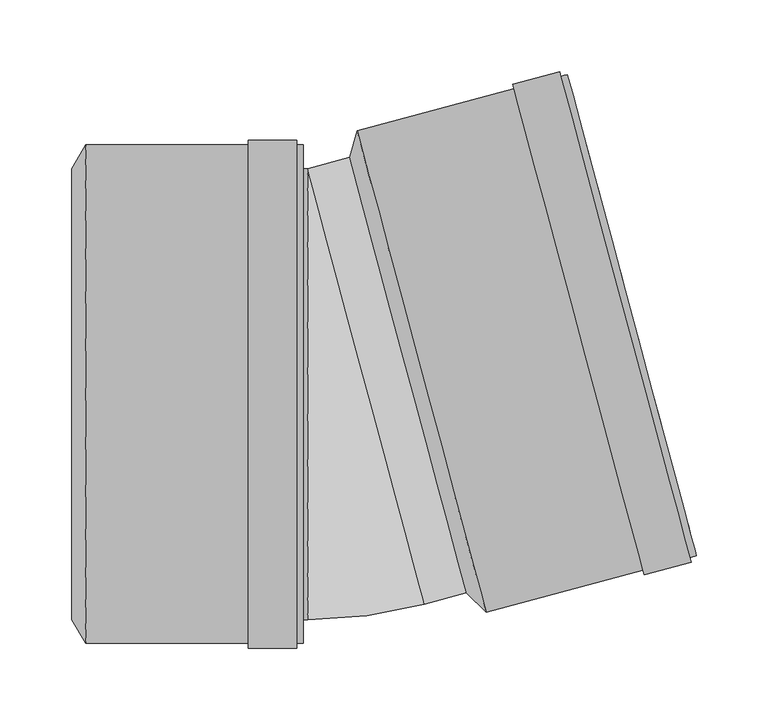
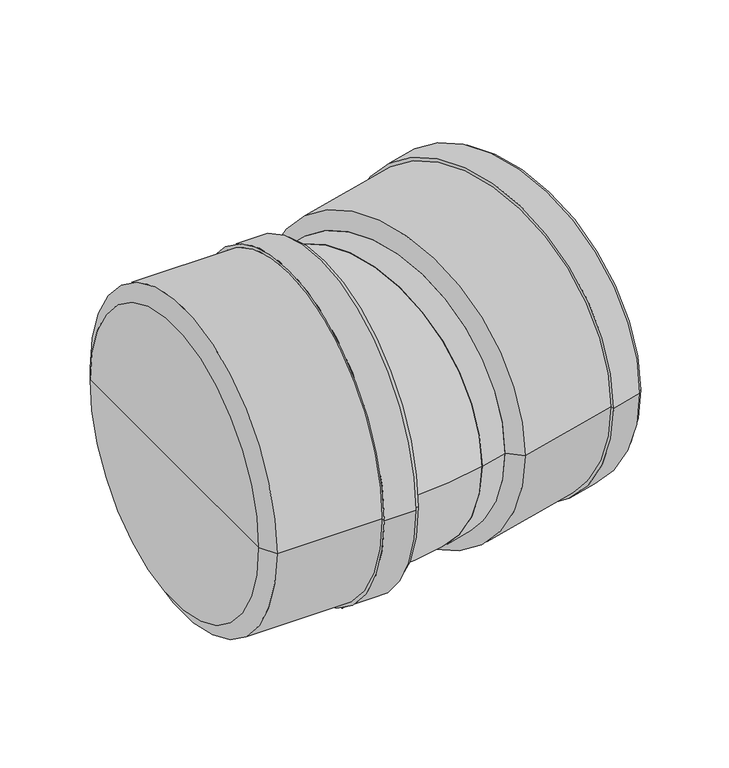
"""IFC4 building model written with IfcOpenShell, lengths in millimetres: pipe fitting geometry, pf_KGB : pf_KGB."""

from ifc_helpers import new_model, si_unit, point, frame, origin, origin_2d, place, context, project, spatial, polyline, circle_curve, ellipse_curve, trimmed, segment, composite_curve, outline, extrude, source, transform, mapped, element, save
from ifc_brep_helpers import plane_surface, cylinder_surface, revolved_surface, advanced_brep


def pipe_fitting_ae4a4517(model_context):
    return source(origin(), model_context, "Body", "SolidModel", [
        advanced_brep(
        [(90.1228093, -138.9076644, 0.0), (8.5948101, 165.3589708, 0.0), (13.8610797, 183.9556481, 0.0), (103.9818712, -152.3797246, 0.0), (49.3588097, 13.2256532, 0.0), (250.8991893, -113.0133478, 0.0), (160.7783978, 223.3220249, 0.0), (165.074794, 207.2876562, 0.0), (246.6027932, -96.9789791, 0.0), (156.1419539, 222.0796935, 0.0), (246.2627454, -114.2556793, 0.0), (155.2619691, 225.3638413, 0.0), (247.1427301, -117.5398271, 0.0), (122.5170836, 216.5898756, 0.0), (214.3978446, -126.3137927, 0.0), (123.3970684, 213.3057278, 0.0), (213.5178599, -123.0296449, 0.0), (99.685475, -136.3453559, 0.0), (18.1574758, 167.9212794, 0.0), (58.9214754, 15.7879618, 0.0)],
        [
            (0, 1, circle_curve(frame((49.3588097, 13.2256532, 0.0), z_axis=(0.9659258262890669, 0.25881904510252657, 0.0), x_axis=(-0.2588190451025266, 0.9659258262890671, 0.0)), 157.5)),
            (1, 2),
            (2, 3, circle_curve(frame((58.9214754, 15.7879618, 0.0), z_axis=(-0.9659258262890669, -0.25881904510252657, 0.0), x_axis=(-0.2588190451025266, 0.9659258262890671, 0.0)), 174.1)),
            (3, 0),
            (1, 0, circle_curve(frame((49.3588097, 13.2256532, 0.0), z_axis=(0.9659258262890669, 0.25881904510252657, 0.0), x_axis=(-0.2588190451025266, 0.9659258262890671, 0.0)), 157.5)),
            (3, 2, circle_curve(frame((58.9214754, 15.7879618, 0.0), z_axis=(-0.9659258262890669, -0.25881904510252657, 0.0), x_axis=(-0.2588190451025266, 0.9659258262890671, 0.0)), 174.1)),
            (4, 1),
            (0, 4),
            (5, 6, circle_curve(frame((205.8387936, 55.1543385, 0.0), z_axis=(0.9659258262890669, 0.25881904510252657, 0.0), x_axis=(-0.2588190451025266, 0.9659258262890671, 0.0)), 174.1)),
            (6, 7),
            (7, 8, circle_curve(frame((205.8387936, 55.1543385, 0.0), z_axis=(-0.9659258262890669, -0.25881904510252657, 0.0), x_axis=(-0.2588190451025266, 0.9659258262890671, 0.0)), 157.5)),
            (8, 5),
            (9, 10, circle_curve(frame((201.2023496, 53.9120071, 0.0), z_axis=(0.9659258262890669, 0.25881904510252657, 0.0), x_axis=(-0.2588190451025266, 0.9659258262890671, 0.0)), 174.1)),
            (10, 5),
            (5, 6, circle_curve(frame((205.8387936, 55.1543385, 0.0), z_axis=(-0.9659258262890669, -0.25881904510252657, 0.0), x_axis=(-0.2588190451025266, 0.9659258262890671, 0.0)), 174.1)),
            (6, 9),
            (11, 12, circle_curve(frame((201.2023496, 53.9120071, 0.0), z_axis=(0.9659258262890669, 0.25881904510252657, 0.0), x_axis=(-0.2588190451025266, 0.9659258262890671, 0.0)), 177.5)),
            (12, 10),
            (9, 11),
            (13, 14, circle_curve(frame((168.4574641, 45.1380415, 0.0), z_axis=(0.9659258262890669, 0.25881904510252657, 0.0), x_axis=(-0.2588190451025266, 0.9659258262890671, 0.0)), 177.5)),
            (14, 12),
            (11, 13),
            (15, 16, circle_curve(frame((168.4574641, 45.1380415, 0.0), z_axis=(0.9659258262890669, 0.25881904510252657, 0.0), x_axis=(-0.2588190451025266, 0.9659258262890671, 0.0)), 174.1)),
            (16, 14),
            (13, 15),
            (8, 7, circle_curve(frame((205.8387936, 55.1543385, 0.0), z_axis=(-0.9659258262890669, -0.25881904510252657, 0.0), x_axis=(-0.2588190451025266, 0.9659258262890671, 0.0)), 157.5)),
            (10, 9, circle_curve(frame((201.2023496, 53.9120071, 0.0), z_axis=(0.9659258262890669, 0.25881904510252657, 0.0), x_axis=(-0.2588190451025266, 0.9659258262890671, 0.0)), 174.1)),
            (12, 11, circle_curve(frame((201.2023496, 53.9120071, 0.0), z_axis=(0.9659258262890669, 0.25881904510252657, 0.0), x_axis=(-0.2588190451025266, 0.9659258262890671, 0.0)), 177.5)),
            (14, 13, circle_curve(frame((168.4574641, 45.1380415, 0.0), z_axis=(0.9659258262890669, 0.25881904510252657, 0.0), x_axis=(-0.2588190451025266, 0.9659258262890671, 0.0)), 177.5)),
            (16, 15, circle_curve(frame((168.4574641, 45.1380415, 0.0), z_axis=(0.9659258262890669, 0.25881904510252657, 0.0), x_axis=(-0.2588190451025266, 0.9659258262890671, 0.0)), 174.1)),
            (2, 15),
            (16, 3),
            (17, 18, circle_curve(frame((58.9214754, 15.7879618, 0.0), z_axis=(0.9659258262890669, 0.25881904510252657, 0.0), x_axis=(-0.2588190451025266, 0.9659258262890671, 0.0)), 157.5)),
            (18, 19),
            (19, 17),
            (18, 17, circle_curve(frame((58.9214754, 15.7879618, 0.0), z_axis=(0.9659258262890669, 0.25881904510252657, 0.0), x_axis=(-0.2588190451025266, 0.9659258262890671, 0.0)), 157.5)),
            (7, 18),
            (17, 8),
        ],
        [
            revolved_surface(polyline([(13.8610797, 183.9556481, 0.0), (8.5948101, 165.3589708, 0.0)]), (49.3588097, 13.2256532, 0.0), (-0.9659258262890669, -0.25881904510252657, 0.0)),
            plane_surface(frame((49.3588097, 13.2256532, 0.0), z_axis=(-0.9659258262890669, -0.25881904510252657, 0.0), x_axis=(-0.25881904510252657, 0.9659258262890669, 0.0))),
            plane_surface(frame((205.8387936, 55.1543385, 0.0), z_axis=(0.9659258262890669, 0.25881904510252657, 0.0), x_axis=(-0.25881904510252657, 0.9659258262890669, 0.0))),
            cylinder_surface(frame((49.3588097, 13.2256532, 0.0), z_axis=(-0.9659258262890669, -0.25881904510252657, 0.0), x_axis=(-0.2588190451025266, 0.9659258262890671, 0.0)), 174.1),
            plane_surface(frame((201.2023496, 53.9120071, 0.0), z_axis=(0.9659258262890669, 0.25881904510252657, 0.0), x_axis=(-0.25881904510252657, 0.9659258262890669, 0.0))),
            cylinder_surface(frame((49.3588097, 13.2256532, 0.0), z_axis=(-0.9659258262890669, -0.25881904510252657, 0.0), x_axis=(-0.2588190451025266, 0.9659258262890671, 0.0)), 177.5),
            plane_surface(frame((168.4574641, 45.1380415, 0.0), z_axis=(-0.9659258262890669, -0.25881904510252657, 0.0), x_axis=(-0.25881904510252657, 0.9659258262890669, 0.0))),
            plane_surface(frame((58.9214754, 15.7879618, 0.0), z_axis=(0.9659258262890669, 0.25881904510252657, 0.0), x_axis=(-0.25881904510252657, 0.9659258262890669, 0.0))),
            revolved_surface(polyline([(18.15747579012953, 167.92127939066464, 0.0), (165.07479401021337, 207.2876561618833, 0.0)]), (49.3588097, 13.2256532, 0.0), (-0.9659258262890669, -0.25881904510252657, 0.0)),
        ],
        [
            (0, [[1, 2, 3, 4]]),
            (0, [[5, -4, 6, -2]]),
            (1, [[7, -1, 8]]),
            (1, [[-8, -5, -7]]),
            (2, [[9, 10, 11, 12]]),
            (3, [[13, 14, 15, 16]]),
            (4, [[17, 18, -13, 19]]),
            (5, [[20, 21, -17, 22]]),
            (6, [[23, 24, -20, 25]]),
            (2, [[-15, -12, 26, -10]]),
            (3, [[27, -16, -9, -14]]),
            (4, [[28, -19, -27, -18]]),
            (5, [[29, -22, -28, -21]]),
            (6, [[30, -25, -29, -24]]),
            (3, [[-3, 31, -30, 32]]),
            (3, [[-6, -32, -23, -31]]),
            (7, [[33, 34, 35]]),
            (7, [[36, -35, -34]]),
            (8, [[-11, 37, -33, 38]]),
            (8, [[-26, -38, -36, -37]]),
        ],
    ),
        advanced_brep(
        [(-185.7, -157.5, 0.0), (-185.7, 157.5, 0.0), (-175.8, 174.1, 0.0), (-175.8, -174.1, 0.0), (-185.7, 0.0, 0.0), (-23.7, -174.1, 0.0), (-23.7, 174.1, 0.0), (-23.7, 157.5, 0.0), (-23.7, -157.5, 0.0), (-28.5, 174.1, 0.0), (-28.5, -174.1, 0.0), (-28.5, 177.5, 0.0), (-28.5, -177.5, 0.0), (-62.4, 177.5, 0.0), (-62.4, -177.5, 0.0), (-62.4, 174.1, 0.0), (-62.4, -174.1, 0.0), (-175.8, -157.5, 0.0), (-175.8, 157.5, 0.0), (-175.8, 0.0, 0.0)],
        [
            (0, 1, circle_curve(frame((-185.7, 0.0, 0.0), z_axis=(1.0, 0.0, 0.0), x_axis=(0.0, 1.0, 0.0)), 157.5)),
            (1, 2),
            (2, 3, circle_curve(frame((-175.8, 0.0, 0.0), z_axis=(-1.0, 0.0, 0.0), x_axis=(0.0, 1.0, 0.0)), 174.1)),
            (3, 0),
            (1, 0, circle_curve(frame((-185.7, 0.0, 0.0), z_axis=(1.0, 0.0, 0.0), x_axis=(0.0, 1.0, 0.0)), 157.5)),
            (3, 2, circle_curve(frame((-175.8, 0.0, 0.0), z_axis=(-1.0, 0.0, 0.0), x_axis=(0.0, 1.0, 0.0)), 174.1)),
            (4, 1),
            (0, 4),
            (5, 6, circle_curve(frame((-23.7, 0.0, 0.0), z_axis=(1.0, 0.0, 0.0), x_axis=(0.0, 1.0, 0.0)), 174.1)),
            (6, 7),
            (7, 8, circle_curve(frame((-23.7, 0.0, 0.0), z_axis=(-1.0, 0.0, 0.0), x_axis=(0.0, 1.0, 0.0)), 157.5)),
            (8, 5),
            (9, 10, circle_curve(frame((-28.5, 0.0, 0.0), z_axis=(1.0, 0.0, 0.0), x_axis=(0.0, 1.0, 0.0)), 174.1)),
            (10, 5),
            (5, 6, circle_curve(frame((-23.7, 0.0, 0.0), z_axis=(-1.0, 0.0, 0.0), x_axis=(0.0, 1.0, 0.0)), 174.1)),
            (6, 9),
            (11, 12, circle_curve(frame((-28.5, 0.0, 0.0), z_axis=(1.0, 0.0, 0.0), x_axis=(0.0, 1.0, 0.0)), 177.5)),
            (12, 10),
            (9, 11),
            (13, 14, circle_curve(frame((-62.4, 0.0, 0.0), z_axis=(1.0, 0.0, 0.0), x_axis=(0.0, 1.0, 0.0)), 177.5)),
            (14, 12),
            (11, 13),
            (15, 16, circle_curve(frame((-62.4, 0.0, 0.0), z_axis=(1.0, 0.0, 0.0), x_axis=(0.0, 1.0, 0.0)), 174.1)),
            (16, 14),
            (13, 15),
            (8, 7, circle_curve(frame((-23.7, 0.0, 0.0), z_axis=(-1.0, 0.0, 0.0), x_axis=(0.0, 1.0, 0.0)), 157.5)),
            (10, 9, circle_curve(frame((-28.5, 0.0, 0.0), z_axis=(1.0, 0.0, 0.0), x_axis=(0.0, 1.0, 0.0)), 174.1)),
            (12, 11, circle_curve(frame((-28.5, 0.0, 0.0), z_axis=(1.0, 0.0, 0.0), x_axis=(0.0, 1.0, 0.0)), 177.5)),
            (14, 13, circle_curve(frame((-62.4, 0.0, 0.0), z_axis=(1.0, 0.0, 0.0), x_axis=(0.0, 1.0, 0.0)), 177.5)),
            (16, 15, circle_curve(frame((-62.4, 0.0, 0.0), z_axis=(1.0, 0.0, 0.0), x_axis=(0.0, 1.0, 0.0)), 174.1)),
            (2, 15),
            (16, 3),
            (17, 18, circle_curve(frame((-175.8, 0.0, 0.0), z_axis=(1.0, 0.0, 0.0), x_axis=(0.0, 1.0, 0.0)), 157.5)),
            (18, 19),
            (19, 17),
            (18, 17, circle_curve(frame((-175.8, 0.0, 0.0), z_axis=(1.0, 0.0, 0.0), x_axis=(0.0, 1.0, 0.0)), 157.5)),
            (7, 18),
            (17, 8),
        ],
        [
            revolved_surface(polyline([(-175.8, 174.1, 0.0), (-185.7, 157.5, 0.0)]), (-185.7, 0.0, 0.0), (-1.0, 0.0, 0.0)),
            plane_surface(frame((-185.7, 0.0, 0.0), z_axis=(-1.0, 0.0, 0.0), x_axis=(0.0, 1.0, 0.0))),
            plane_surface(frame((-23.7, 0.0, 0.0), z_axis=(1.0, 0.0, 0.0), x_axis=(0.0, 1.0, 0.0))),
            cylinder_surface(frame((-185.7, 0.0, 0.0), z_axis=(-1.0, 0.0, 0.0), x_axis=(0.0, 1.0, 0.0)), 174.1),
            plane_surface(frame((-28.5, 0.0, 0.0), z_axis=(1.0, 0.0, 0.0), x_axis=(0.0, 1.0, 0.0))),
            cylinder_surface(frame((-185.7, 0.0, 0.0), z_axis=(-1.0, 0.0, 0.0), x_axis=(0.0, 1.0, 0.0)), 177.5),
            plane_surface(frame((-62.4, 0.0, 0.0), z_axis=(-1.0, 0.0, 0.0), x_axis=(0.0, 1.0, 0.0))),
            plane_surface(frame((-175.8, 0.0, 0.0), z_axis=(1.0, 0.0, 0.0), x_axis=(0.0, 1.0, 0.0))),
            revolved_surface(polyline([(-175.8, 157.5, 0.0), (-23.69999999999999, 157.5, 0.0)]), (-185.7, 0.0, 0.0), (-1.0, 0.0, 0.0)),
        ],
        [
            (0, [[1, 2, 3, 4]]),
            (0, [[5, -4, 6, -2]]),
            (1, [[7, -1, 8]]),
            (1, [[-8, -5, -7]]),
            (2, [[9, 10, 11, 12]]),
            (3, [[13, 14, 15, 16]]),
            (4, [[17, 18, -13, 19]]),
            (5, [[20, 21, -17, 22]]),
            (6, [[23, 24, -20, 25]]),
            (2, [[-15, -12, 26, -10]]),
            (3, [[27, -16, -9, -14]]),
            (4, [[28, -19, -27, -18]]),
            (5, [[29, -22, -28, -21]]),
            (6, [[30, -25, -29, -24]]),
            (3, [[-3, 31, -30, 32]]),
            (3, [[-6, -32, -23, -31]]),
            (7, [[33, 34, 35]]),
            (7, [[36, -35, -34]]),
            (8, [[-11, 37, -33, 38]]),
            (8, [[-26, -38, -36, -37]]),
        ],
    ),
        extrude(outline(composite_curve([segment(trimmed(circle_curve(origin_2d(), 157.5), [point((0.0, -157.5))], [point((0.0, 157.5000001))], False, "CARTESIAN"), True, "CONTINUOUS"), segment(trimmed(circle_curve(origin_2d(), 157.5), [point((0.0, 157.5000001))], [point((0.0, -157.5))], False, "CARTESIAN"), True, "CONTINUOUS")], self_intersect=False)), frame((20.0287312, 5.3666824, 0.0), z_axis=(0.9659258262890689, 0.25881904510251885, 0.0), x_axis=(0.0, 0.0, 1.0)), (0.0, 0.0, 1.0), 30.3647316),
        extrude(outline(composite_curve([segment(trimmed(circle_curve(origin_2d(), 157.5), [point((-157.5, 0.0))], [point((157.5, 0.0))], False, "CARTESIAN"), True, "CONTINUOUS"), segment(trimmed(circle_curve(origin_2d(), 157.5), [point((157.5, 0.0))], [point((-157.5, 0.0))], False, "CARTESIAN"), True, "CONTINUOUS")], self_intersect=False)), frame((-175.8, 0.0, 0.0), z_axis=(1.0, 0.0, 0.0), x_axis=(0.0, 1.0, 0.0)), (0.0, 0.0, 1.0), 155.0647316),
        advanced_brep(
        [(-20.7352684, -157.5, 0.0), (-20.7352684, 157.5, 0.0), (60.7927308, -146.7666353, 0.0)],
        [
            (0, 1, circle_curve(frame((-20.7352684, 0.0, 0.0), z_axis=(-1.0, 0.0, 0.0), x_axis=(0.0, 1.0, 0.0)), 157.5)),
            (1, 0, circle_curve(frame((-20.7352684, 0.0, 0.0), z_axis=(-1.0, 0.0, 0.0), x_axis=(0.0, 1.0, 0.0)), 157.5)),
            (2, 1, circle_curve(frame((20.0287312, 5.3666824, 0.0), z_axis=(0.9659258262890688, 0.25881904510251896, 0.0), x_axis=(-0.25881904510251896, 0.9659258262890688, 0.0)), 157.5)),
            (1, 2, circle_curve(frame((20.0287312, 5.3666824, 0.0), z_axis=(0.9659258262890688, 0.25881904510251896, 0.0), x_axis=(-0.25881904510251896, 0.9659258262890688, 0.0)), 157.5)),
            (2, 0, circle_curve(frame((-20.7352684, 157.5, 0.0), z_axis=(0.0, 0.0, -1.0), x_axis=(0.0, -1.0, 0.0)), 315.0)),
        ],
        [
            plane_surface(frame((-20.7352684, 157.5, -14.8), z_axis=(-1.0, 0.0, 0.0), x_axis=(0.0, -1.0, 0.0))),
            plane_surface(frame((-20.7352684, 157.5, -14.8), z_axis=(0.9659258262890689, 0.258819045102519, 0.0), x_axis=(0.258819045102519, -0.9659258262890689, 0.0))),
            revolved_surface(trimmed(ellipse_curve(frame((-20.7352684, 0.0, 0.0), z_axis=(1.0, 0.0, 0.0), x_axis=(0.0, 1.0, 0.0)), 157.5, 157.5), [point((-20.7352684, -157.5, 0.0))], [point((-20.7352684, 157.5, 0.0))], True, "CARTESIAN"), (-20.7352684, 157.5, -14.8), (0.0, 0.0, -1.0)),
            revolved_surface(trimmed(ellipse_curve(frame((-20.7352684, 0.0, 0.0), z_axis=(1.0, 0.0, 0.0), x_axis=(0.0, 1.0, 0.0)), 157.5, 157.5), [point((-20.7352684, 157.5, 0.0))], [point((-20.7352684, -157.5, 0.0))], True, "CARTESIAN"), (-20.7352684, 157.5, -14.8), (0.0, 0.0, -1.0)),
        ],
        [
            (0, [[1, 2]]),
            (1, [[3, 4]]),
            (2, [[5, -2, -3]]),
            (3, [[-1, -5, -4]]),
        ],
    ),
    ])


if __name__ == "__main__":
    model = new_model("IFC4")
    model_context = context("Model", 3, world=origin())
    ifc_project = project(units=[si_unit("LENGTHUNIT", "METRE", prefix="MILLI")], contexts=[model_context])
    site = spatial("IfcSite", under=ifc_project)
    building = spatial("IfcBuilding", under=site)
    placement = place(None, origin())
    pipe_fitting_shape = pipe_fitting_ae4a4517(model_context)
    element("IfcPipeFitting", 1, ObjectType="pf_KGB : pf_KGB", at=placement, inside=building, context=model_context, shape_type="MappedRepresentation", body=[
        mapped(pipe_fitting_shape, transform((0.0, 0.0, 0.0), x_axis=(1.0, 0.0, 0.0), y_axis=(0.0, 1.0, 0.0), z_axis=(0.0, 0.0, 1.0))),
    ])
    save(model, "model.ifc")
